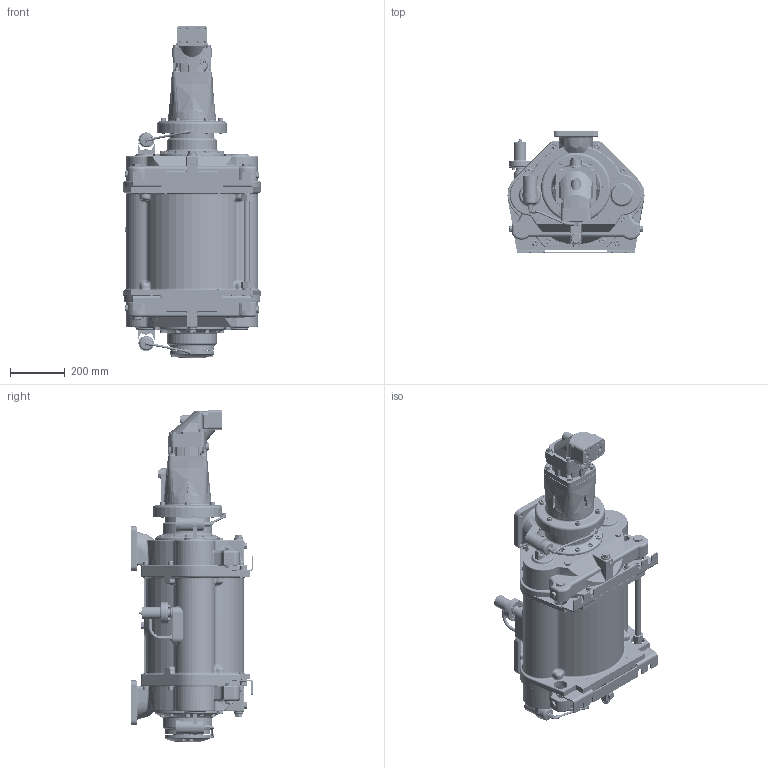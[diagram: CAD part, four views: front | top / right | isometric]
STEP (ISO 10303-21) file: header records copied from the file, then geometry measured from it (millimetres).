
FILE_DESCRIPTION(/* description */ (''),/* implementation_level */ '2;1');
FILE_NAME(/* name */ '1700039C.stp',/* time_stamp */ '2025-09-24T08:44:32+02:00',/* author */ ('JJ'),/* organization */ (''),/* preprocessor_version */ 'ST-DEVELOPER v20',/* originating_system */ 'Autodesk Inventor 2025',/* authorisation */ '');
FILE_SCHEMA (('AUTOMOTIVE_DESIGN { 1 0 10303 214 3 1 1 }'));
Length unit declared in the file: millimetre
Products named in the file (34): 1700039; 1700038 Ready for adaptor; 1700039_Part4; 915000217; 922200269; 915000021; 910300074; 932400148; 932400149; 932400150; 915000050; 910100013; 910100198; 910200013; 944000087; 944000087_part1; 944000087_part2; 944000087_part3; 1654078; 1654076; 910300509; 1634826; 1634811; 922000266; 915000232; 910300487; 915000225; 915000225-part1; 915000225-part2; 910100191; 944600240; 944600173; 944600239; Slange 3 automatsmøring TM1700
Assembly tree (60 placements, depth 3):
  1700039
    1700038 Ready for adaptor
    1700039_Part4
    915000232  x2
    910300487  x2
    915000225  x2
      915000225-part1
      915000225-part2
    910100191  x2
    944600173  x2
    944600239  x2
    915000217
    944600240  x2
    910300074  x2
    915000050  x2
    922200269
    915000021
    932400148
    932400149
    932400150
    910100198  x4
    910100013  x4
    910200013  x4
    944000087
      944000087_part1
      944000087_part2
      944000087_part3
    1654078
    1654076
    910300509  x10
    1634826
      1634811
      922000266
    Slange 3 automatsmøring TM1700
Bounding box: 502.5 x 447.1 x 1217.42 mm (x, y, z)
Volume: 91861946.1 mm3; surface area: 2938142.3 mm2
Topology: 59 solids, 60 shells, 5099 faces, 12897 edges, 8260 vertices
Faces by surface type: plane 2049, cylinder 1389, bspline 906, cone 384, torus 304, sphere 67
Full cylindrical faces by diameter (mm): 1.5 x16, 3.3 x4, 3.5 x4, 4 x4, 4.134 x4, 5 x2, 5.3 x2, 6 x5, 6.647 x1, 6.8 x2, 8 x27, 8.376 x9, 8.5 x2, 8.92 x2, 9.2 x2, 9.7 x1, 9.8 x4, 10 x10, 10.106 x34, 10.11 x1, 11.445 x2, 12 x148, 13 x22, 13.5 x4, 13.835 x8, 14.95 x1, 15 x4, 16 x4, 16.662 x1, 17.5 x12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
Entity records: 181689 total; most frequent: CARTESIAN_POINT 77418, ORIENTED_EDGE 21892, DIRECTION 19360, EDGE_CURVE 10946, AXIS2_PLACEMENT_3D 7304, VERTEX_POINT 7031, EDGE_LOOP 4911, LINE 4752
